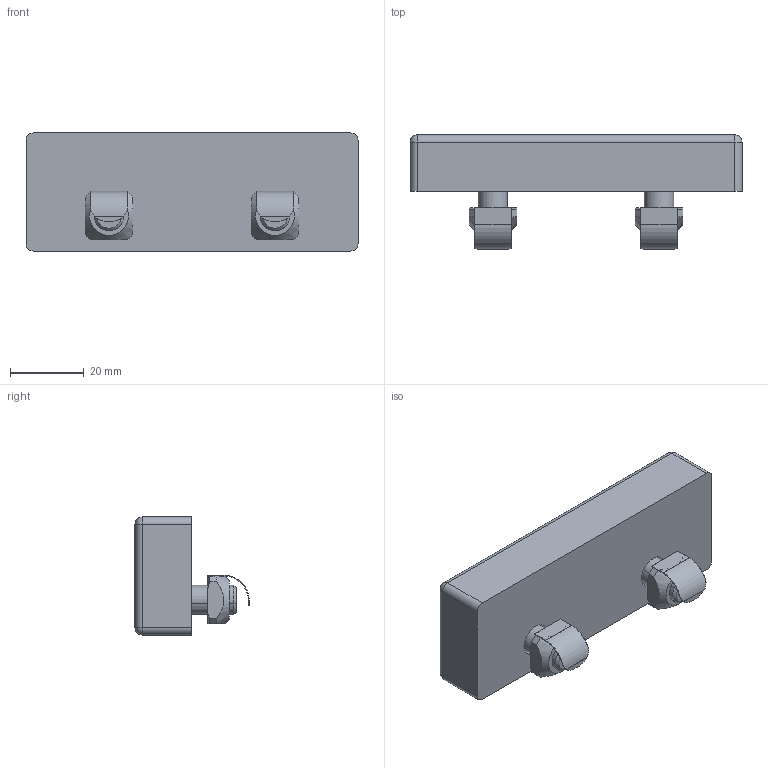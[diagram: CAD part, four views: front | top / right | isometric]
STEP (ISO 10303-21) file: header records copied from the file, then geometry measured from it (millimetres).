
FILE_DESCRIPTION (( 'STEP AP214' ), '1' );
FILE_NAME ('1.3035 Yhdistämislevy 90X32.STEP', '2025-09-08T09:02:43', ( '' ), ( '' ), 'SwSTEP 2.0', 'SolidWorks 2025', '' );
FILE_SCHEMA (( 'AUTOMOTIVE_DESIGN' ));
Length unit declared in the file: millimetre
Products named in the file (1): 1.3035 Yhdistämislevy 90X32
Bounding box: 90 x 30.95 x 32 mm (x, y, z)
Volume: 45405.9 mm3; surface area: 13800.2 mm2
Topology: 5 solids, 5 shells, 148 faces, 352 edges, 212 vertices
Faces by surface type: plane 82, cylinder 36, cone 18, torus 8, sphere 4
Entity records: 6075 total; most frequent: CARTESIAN_POINT 987, DIRECTION 718, ORIENTED_EDGE 688, EDGE_CURVE 344, AXIS2_PLACEMENT_3D 263, VERTEX_POINT 212, VECTOR 192, LINE 192
